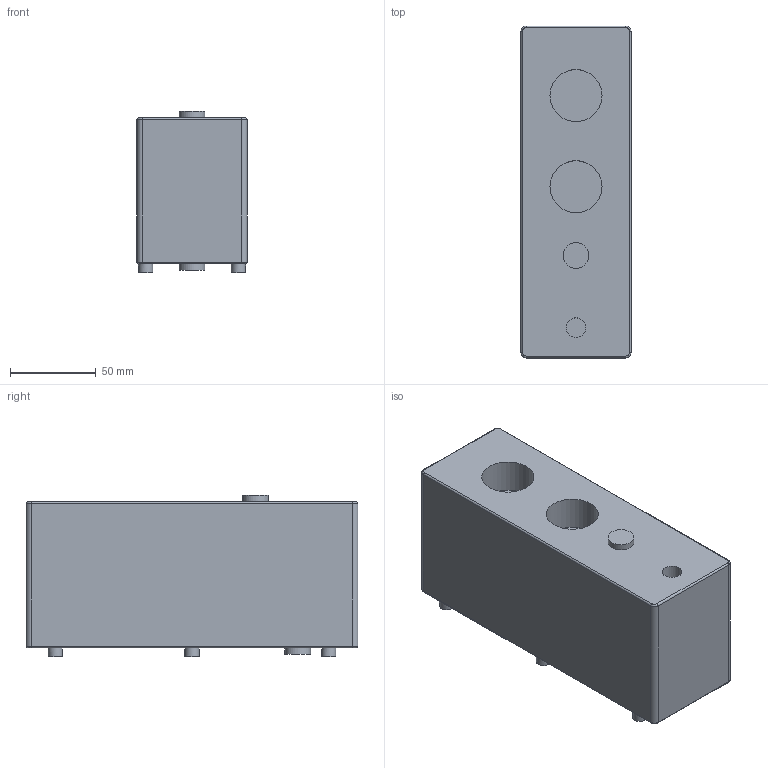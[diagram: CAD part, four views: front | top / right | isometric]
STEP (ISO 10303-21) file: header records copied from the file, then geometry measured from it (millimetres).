
FILE_DESCRIPTION(/* description */ ('GENERATORE DI VUOTO ALTA PORTATA G1" (1150/1400 l/min)'),/* implementation_level */ '2;1');
FILE_NAME(/* name */ 'C:\PNX_VAULTFOLDER\Area Tecnica\Disegni\VARIE-3D\Componenti\1900 (vuoto)\19TG1_M_58_HF_PP.stp',/* time_stamp */ '2019-09-13T11:47:55+02:00',/* author */ ('maniean1'),/* organization */ ('Pneumax S.p.A.'),/* preprocessor_version */ 'ST-DEVELOPER v17',/* originating_system */ 'Autodesk Inventor 2019',/* authorisation */ '');
FILE_SCHEMA (('AUTOMOTIVE_DESIGN { 1 0 10303 214 3 1 1 }'));
Length unit declared in the file: millimetre
Products named in the file (1): 19TG1.M.58.HF.PP
Bounding box: 64 x 193 x 93.7 mm (x, y, z)
Volume: 1021457.1 mm3; surface area: 73639.3 mm2
Topology: 1 solids, 2 shells, 59 faces, 137 edges, 91 vertices
Faces by surface type: cylinder 28, plane 23, torus 8
Full cylindrical faces by diameter (mm): 4.2 x4, 8.3 x6, 11.445 x2, 15 x2, 30.291 x2
Entity records: 1777 total; most frequent: DIRECTION 330, CARTESIAN_POINT 321, ORIENTED_EDGE 274, AXIS2_PLACEMENT_3D 142, EDGE_CURVE 137, VERTEX_POINT 91, CIRCLE 82, EDGE_LOOP 68
